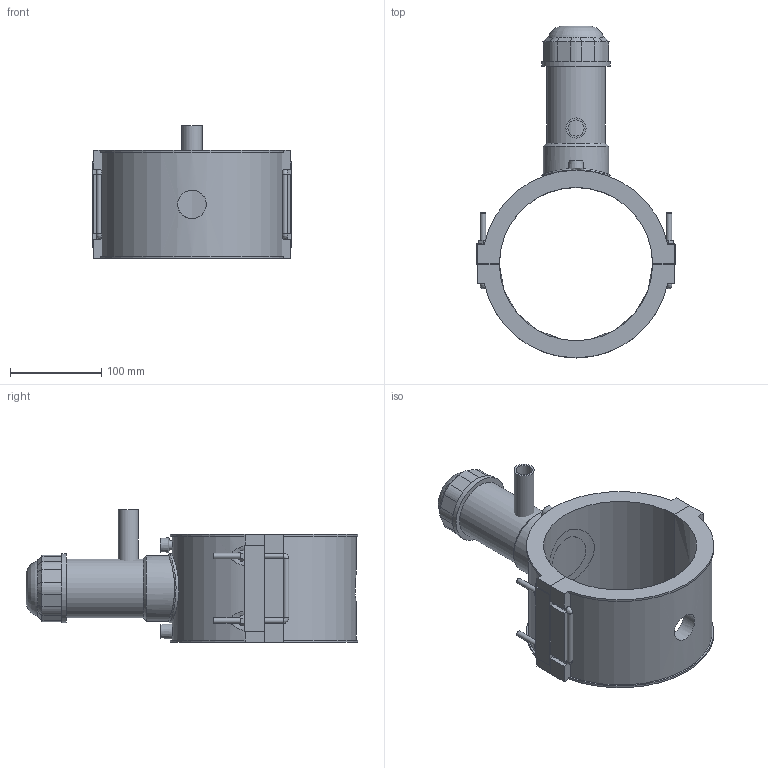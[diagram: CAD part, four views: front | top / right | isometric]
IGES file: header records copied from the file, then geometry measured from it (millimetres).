
Global section: file name: 5963BUP3060007.ipt; native system: Autodesk Inventor 2019; preprocessor: unknown; author: KIM; date: 20210830.101626; units: inch
Bounding box: 217.9 x 363.85 x 145.16 mm (x, y, z)
Volume: 1594196.6 mm3; surface area: 268877.1 mm2
Topology: 3 solids, 4 shells, 185 faces, 464 edges, 293 vertices
Faces by surface type: plane 115, cylinder 33, cone 15, revolution 13, bspline 9
Full cylindrical faces by diameter (mm): 4 x2, 6 x10, 22.1 x1, 64.26 x1, 71.82 x1, 75.6 x2
